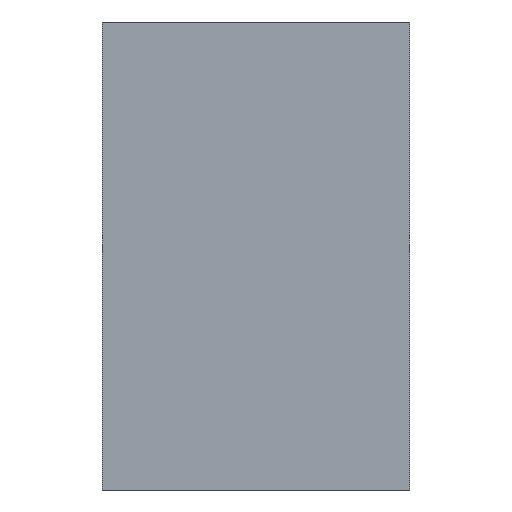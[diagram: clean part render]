
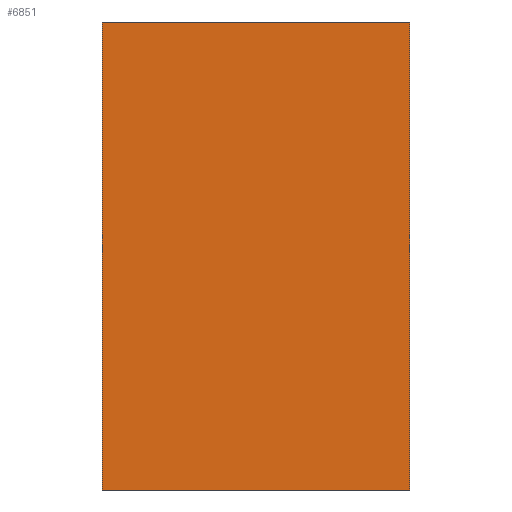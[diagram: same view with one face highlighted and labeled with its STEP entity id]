
A CAD part, left-side view. The second image highlights one B-rep face of the part: STEP entity #6851.
In plain terms, the highlighted planar face has unit normal (-1, 0, 0).
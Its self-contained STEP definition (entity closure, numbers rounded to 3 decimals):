
#6727=DIRECTION('',(0.,1.,0.));
#6728=VECTOR('',#6727,1305.699);
#6729=CARTESIAN_POINT('',(-924.47,-97.699,1838.));
#6730=LINE('',#6729,#6728);
#6739=DIRECTION('',(0.,1.,0.));
#6740=VECTOR('',#6739,1305.699);
#6741=CARTESIAN_POINT('',(-924.47,-97.699,-152.));
#6742=LINE('',#6741,#6740);
#6743=DIRECTION('',(0.,0.,1.));
#6744=VECTOR('',#6743,1990.);
#6745=CARTESIAN_POINT('',(-924.47,1208.,-152.));
#6746=LINE('',#6745,#6744);
#6751=DIRECTION('',(0.,0.,1.));
#6752=VECTOR('',#6751,1990.);
#6753=CARTESIAN_POINT('',(-924.47,-97.699,-152.));
#6754=LINE('',#6753,#6752);
#6779=CARTESIAN_POINT('',(-924.47,1208.,1838.));
#6781=VERTEX_POINT('',#6779);
#6789=CARTESIAN_POINT('',(-924.47,-97.699,1838.));
#6790=VERTEX_POINT('',#6789);
#6791=CARTESIAN_POINT('',(-924.47,1208.,-152.));
#6792=VERTEX_POINT('',#6791);
#6795=CARTESIAN_POINT('',(-924.47,-97.699,-152.));
#6796=VERTEX_POINT('',#6795);
#6838=CARTESIAN_POINT('',(-924.47,1208.,1838.));
#6839=DIRECTION('',(-1.,0.,0.));
#6840=DIRECTION('',(0.,-1.,0.));
#6841=AXIS2_PLACEMENT_3D('',#6838,#6839,#6840);
#6842=PLANE('',#6841);
#6843=ORIENTED_EDGE('',*,*,#6818,.F.);
#6845=ORIENTED_EDGE('',*,*,#6844,.F.);
#6847=ORIENTED_EDGE('',*,*,#6846,.T.);
#6848=ORIENTED_EDGE('',*,*,#6829,.T.);
#6849=EDGE_LOOP('',(#6843,#6845,#6847,#6848));
#6850=FACE_OUTER_BOUND('',#6849,.F.);
#6818=EDGE_CURVE('',#6790,#6781,#6730,.T.);
#6829=EDGE_CURVE('',#6792,#6781,#6746,.T.);
#6844=EDGE_CURVE('',#6796,#6790,#6754,.T.);
#6846=EDGE_CURVE('',#6796,#6792,#6742,.T.);
#6851=ADVANCED_FACE('',(#6850),#6842,.T.);
